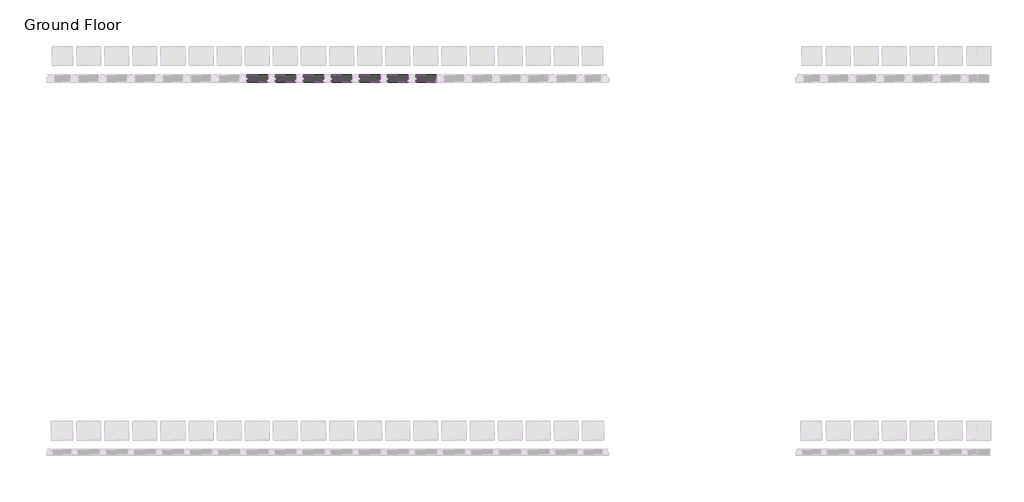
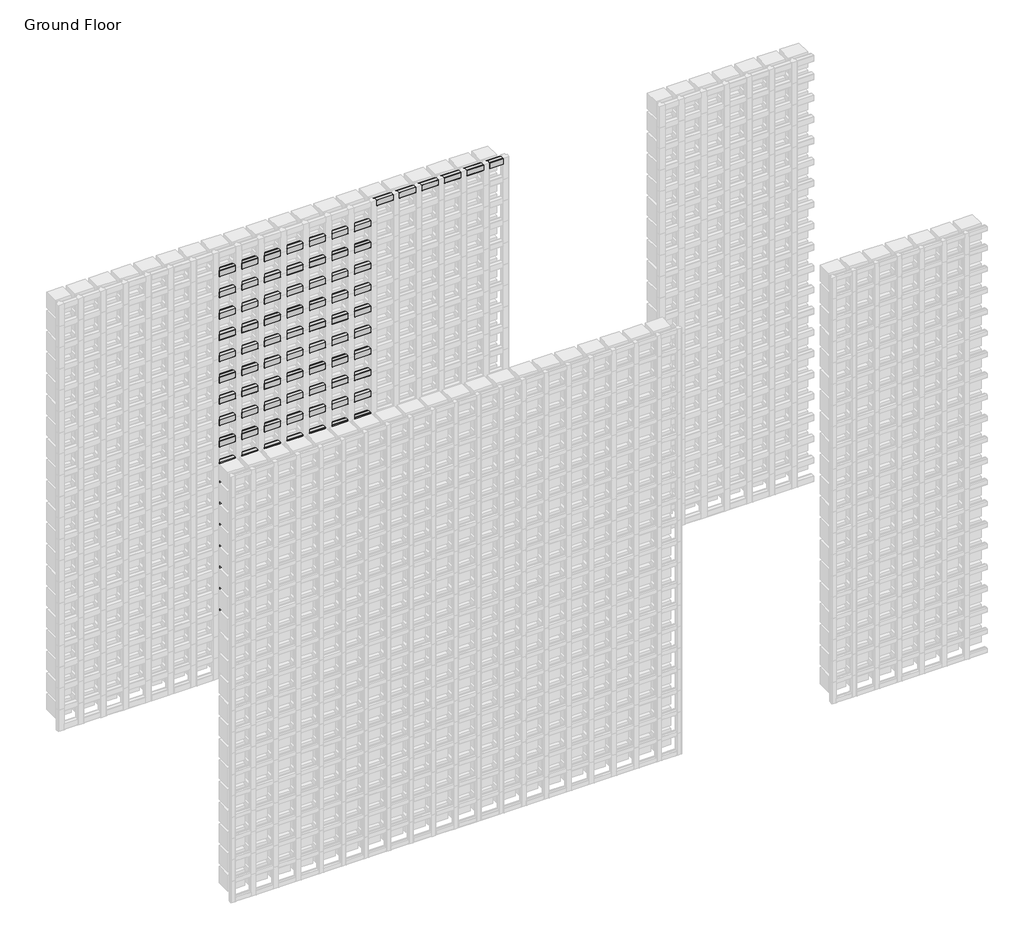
# One storey, part 114 of 350: 137 members, 6 plates.
"""IFC4 building model written with IfcOpenShell, lengths in millimetres."""

from ifc_helpers import new_model, si_unit, origin, place, context, project, spatial, transform, mapped, element, save
from components import rectangular_mullion_84e0df2e, rectangular_mullion_ff8a000c, rectangular_mullion_dacc5c26, rectangular_mullion_b3ed1982, rectangular_mullion_71680797, rectangular_mullion_c1c7f7ba, empty_system_panel_empty_5e80e148, empty_system_panel_empty_a9be3bbe

model = new_model("IFC4")

# Units and contexts
model_context = context("Model", 3, world=origin())
ifc_project = project(units=[si_unit("LENGTHUNIT", "METRE", prefix="MILLI")], contexts=[model_context])

# Site, building, storey
site = spatial("IfcSite", under=ifc_project)
building = spatial("IfcBuilding", under=site)
storey = spatial("IfcBuildingStorey", under=building, Name="Ground Floor", Elevation=0.0)

# Members
placement = place(None, origin())
rectangular_mullion_shape = rectangular_mullion_84e0df2e(model_context)
element("IfcMember", 1, ObjectType="Rectangular Mullion : Batten_Timber_Modinex_Austratus_Grid_Fin_40x40_AlaskanYellowCedar", at=placement, inside=storey, context=model_context, shape_type="MappedRepresentation", body=[
    mapped(rectangular_mullion_shape, transform((4016.4361642, 44968.2978302, 0.0), x_axis=(1.0, 0.0, 0.0), y_axis=(0.0, -1.0, 0.0), z_axis=(0.0, 0.0, -1.0))),
])
element("IfcMember", 2, ObjectType="Rectangular Mullion : Batten_Timber_Modinex_Austratus_Grid_Fin_40x40_AlaskanYellowCedar", at=placement, inside=storey, context=model_context, shape_type="MappedRepresentation", body=[
    mapped(rectangular_mullion_shape, transform((4166.4361642, 44968.2978302, 0.0), x_axis=(1.0, 0.0, 0.0), y_axis=(0.0, -1.0, 0.0), z_axis=(0.0, 0.0, -1.0))),
])
element("IfcMember", 3, ObjectType="Rectangular Mullion : Batten_Timber_Modinex_Austratus_Grid_Fin_40x40_AlaskanYellowCedar", at=placement, inside=storey, context=model_context, shape_type="MappedRepresentation", body=[
    mapped(rectangular_mullion_shape, transform((4316.4361642, 44968.2978302, 0.0), x_axis=(1.0, 0.0, 0.0), y_axis=(0.0, -1.0, 0.0), z_axis=(0.0, 0.0, -1.0))),
])
element("IfcMember", 4, ObjectType="Rectangular Mullion : Batten_Timber_Modinex_Austratus_Grid_Fin_40x40_AlaskanYellowCedar", at=placement, inside=storey, context=model_context, shape_type="MappedRepresentation", body=[
    mapped(rectangular_mullion_shape, transform((4466.4361642, 44968.2978302, 0.0), x_axis=(1.0, 0.0, 0.0), y_axis=(0.0, -1.0, 0.0), z_axis=(0.0, 0.0, -1.0))),
])
element("IfcMember", 5, ObjectType="Rectangular Mullion : Batten_Timber_Modinex_Austratus_Grid_Fin_40x40_AlaskanYellowCedar", at=placement, inside=storey, context=model_context, shape_type="MappedRepresentation", body=[
    mapped(rectangular_mullion_shape, transform((4616.4361642, 44968.2978302, 0.0), x_axis=(1.0, 0.0, 0.0), y_axis=(0.0, -1.0, 0.0), z_axis=(0.0, 0.0, -1.0))),
])
element("IfcMember", 6, ObjectType="Rectangular Mullion : Batten_Timber_Modinex_Austratus_Grid_Fin_40x40_AlaskanYellowCedar", at=placement, inside=storey, context=model_context, shape_type="MappedRepresentation", body=[
    mapped(rectangular_mullion_shape, transform((4766.4361642, 44968.2978302, 0.0), x_axis=(1.0, 0.0, 0.0), y_axis=(0.0, -1.0, 0.0), z_axis=(0.0, 0.0, -1.0))),
])
rectangular_mullion_2_shape = rectangular_mullion_ff8a000c(model_context)
element("IfcMember", 7, ObjectType="Rectangular Mullion : Batten_Timber_Modinex_Austratus_Grid_Fin_40x40_AlaskanYellowCedar", at=placement, inside=storey, context=model_context, shape_type="MappedRepresentation", body=[
    mapped(rectangular_mullion_2_shape, transform((4876.4361639, 44968.2978302, 3000.0), x_axis=(0.0, 0.0, 1.0), y_axis=(0.0, -1.0, 0.0), z_axis=(1.0, 0.0, 0.0))),
])
rectangular_mullion_3_shape = rectangular_mullion_dacc5c26(model_context)
element("IfcMember", 8, ObjectType="Rectangular Mullion : Batten_Timber_Modinex_Austratus_Grid_Fin_40x40_AlaskanYellowCedar", at=placement, inside=storey, context=model_context, shape_type="MappedRepresentation", body=[
    mapped(rectangular_mullion_3_shape, transform((4146.4361642, 44968.2978302, 3000.0), x_axis=(0.0, 0.0, 1.0), y_axis=(0.0, -1.0, 0.0), z_axis=(1.0, 0.0, 0.0))),
])
element("IfcMember", 9, ObjectType="Rectangular Mullion : Batten_Timber_Modinex_Austratus_Grid_Fin_40x40_AlaskanYellowCedar", at=placement, inside=storey, context=model_context, shape_type="MappedRepresentation", body=[
    mapped(rectangular_mullion_3_shape, transform((4296.4361642, 44968.2978302, 3000.0), x_axis=(0.0, 0.0, 1.0), y_axis=(0.0, -1.0, 0.0), z_axis=(1.0, 0.0, 0.0))),
])
element("IfcMember", 10, ObjectType="Rectangular Mullion : Batten_Timber_Modinex_Austratus_Grid_Fin_40x40_AlaskanYellowCedar", at=placement, inside=storey, context=model_context, shape_type="MappedRepresentation", body=[
    mapped(rectangular_mullion_3_shape, transform((4446.4361642, 44968.2978302, 3000.0), x_axis=(0.0, 0.0, 1.0), y_axis=(0.0, -1.0, 0.0), z_axis=(1.0, 0.0, 0.0))),
])
element("IfcMember", 11, ObjectType="Rectangular Mullion : Batten_Timber_Modinex_Austratus_Grid_Fin_40x40_AlaskanYellowCedar", at=placement, inside=storey, context=model_context, shape_type="MappedRepresentation", body=[
    mapped(rectangular_mullion_3_shape, transform((4596.4361642, 44968.2978302, 3000.0), x_axis=(0.0, 0.0, 1.0), y_axis=(0.0, -1.0, 0.0), z_axis=(1.0, 0.0, 0.0))),
])
element("IfcMember", 12, ObjectType="Rectangular Mullion : Batten_Timber_Modinex_Austratus_Grid_Fin_40x40_AlaskanYellowCedar", at=placement, inside=storey, context=model_context, shape_type="MappedRepresentation", body=[
    mapped(rectangular_mullion_3_shape, transform((4746.4361642, 44968.2978302, 3000.0), x_axis=(0.0, 0.0, 1.0), y_axis=(0.0, -1.0, 0.0), z_axis=(1.0, 0.0, 0.0))),
])
rectangular_mullion_4_shape = rectangular_mullion_b3ed1982(model_context)
element("IfcMember", 13, ObjectType="Rectangular Mullion : Batten_Timber_Modinex_Austratus_Grid_Fin_40x40_AlaskanYellowCedar", at=placement, inside=storey, context=model_context, shape_type="MappedRepresentation", body=[
    mapped(rectangular_mullion_4_shape, transform((4786.4361642, 44968.2978302, 0.0), x_axis=(0.0, 0.0, -1.0), y_axis=(0.0, -1.0, 0.0), z_axis=(-1.0, 0.0, 0.0))),
])
rectangular_mullion_5_shape = rectangular_mullion_71680797(model_context)
element("IfcMember", 14, ObjectType="Rectangular Mullion : Batten_Timber_Modinex_Austratus_Grid_Fin_40x40_AlaskanYellowCedar", at=placement, inside=storey, context=model_context, shape_type="MappedRepresentation", body=[
    mapped(rectangular_mullion_5_shape, transform((4036.4361642, 44968.2978302, 0.0), x_axis=(0.0, 0.0, -1.0), y_axis=(0.0, -1.0, 0.0), z_axis=(-1.0, 0.0, 0.0))),
])
element("IfcMember", 15, ObjectType="Rectangular Mullion : Batten_Timber_Modinex_Austratus_Grid_Fin_40x40_AlaskanYellowCedar", at=placement, inside=storey, context=model_context, shape_type="MappedRepresentation", body=[
    mapped(rectangular_mullion_5_shape, transform((4186.4361642, 44968.2978302, 0.0), x_axis=(0.0, 0.0, -1.0), y_axis=(0.0, -1.0, 0.0), z_axis=(-1.0, 0.0, 0.0))),
])
element("IfcMember", 16, ObjectType="Rectangular Mullion : Batten_Timber_Modinex_Austratus_Grid_Fin_40x40_AlaskanYellowCedar", at=placement, inside=storey, context=model_context, shape_type="MappedRepresentation", body=[
    mapped(rectangular_mullion_5_shape, transform((4336.4361642, 44968.2978302, 0.0), x_axis=(0.0, 0.0, -1.0), y_axis=(0.0, -1.0, 0.0), z_axis=(-1.0, 0.0, 0.0))),
])
element("IfcMember", 17, ObjectType="Rectangular Mullion : Batten_Timber_Modinex_Austratus_Grid_Fin_40x40_AlaskanYellowCedar", at=placement, inside=storey, context=model_context, shape_type="MappedRepresentation", body=[
    mapped(rectangular_mullion_5_shape, transform((4486.4361642, 44968.2978302, 0.0), x_axis=(0.0, 0.0, -1.0), y_axis=(0.0, -1.0, 0.0), z_axis=(-1.0, 0.0, 0.0))),
])
element("IfcMember", 18, ObjectType="Rectangular Mullion : Batten_Timber_Modinex_Austratus_Grid_Fin_40x40_AlaskanYellowCedar", at=placement, inside=storey, context=model_context, shape_type="MappedRepresentation", body=[
    mapped(rectangular_mullion_5_shape, transform((4636.4361642, 44968.2978302, 0.0), x_axis=(0.0, 0.0, -1.0), y_axis=(0.0, -1.0, 0.0), z_axis=(-1.0, 0.0, 0.0))),
])
rectangular_mullion_6_shape = rectangular_mullion_c1c7f7ba(model_context)
element("IfcMember", 19, ObjectType="Rectangular Mullion : Batten_Timber_Modinex_Austratus_Grid_Fin_40x40_AlaskanYellowCedar", at=placement, inside=storey, context=model_context, shape_type="MappedRepresentation", body=[
    mapped(rectangular_mullion_6_shape, transform((3096.4361642, 44968.2978302, 450.0), x_axis=(0.0, 0.0, 1.0), y_axis=(0.0, -1.0, 0.0), z_axis=(1.0, 0.0, 0.0))),
])
element("IfcMember", 20, ObjectType="Rectangular Mullion : Batten_Timber_Modinex_Austratus_Grid_Fin_40x40_AlaskanYellowCedar", at=placement, inside=storey, context=model_context, shape_type="MappedRepresentation", body=[
    mapped(rectangular_mullion_6_shape, transform((3246.4361642, 44968.2978302, 450.0), x_axis=(0.0, 0.0, 1.0), y_axis=(0.0, -1.0, 0.0), z_axis=(1.0, 0.0, 0.0))),
])
element("IfcMember", 21, ObjectType="Rectangular Mullion : Batten_Timber_Modinex_Austratus_Grid_Fin_40x40_AlaskanYellowCedar", at=placement, inside=storey, context=model_context, shape_type="MappedRepresentation", body=[
    mapped(rectangular_mullion_6_shape, transform((3396.4361642, 44968.2978302, 450.0), x_axis=(0.0, 0.0, 1.0), y_axis=(0.0, -1.0, 0.0), z_axis=(1.0, 0.0, 0.0))),
])
element("IfcMember", 22, ObjectType="Rectangular Mullion : Batten_Timber_Modinex_Austratus_Grid_Fin_40x40_AlaskanYellowCedar", at=placement, inside=storey, context=model_context, shape_type="MappedRepresentation", body=[
    mapped(rectangular_mullion_6_shape, transform((3546.4361642, 44968.2978302, 450.0), x_axis=(0.0, 0.0, 1.0), y_axis=(0.0, -1.0, 0.0), z_axis=(1.0, 0.0, 0.0))),
])
element("IfcMember", 23, ObjectType="Rectangular Mullion : Batten_Timber_Modinex_Austratus_Grid_Fin_40x40_AlaskanYellowCedar", at=placement, inside=storey, context=model_context, shape_type="MappedRepresentation", body=[
    mapped(rectangular_mullion_6_shape, transform((3696.4361642, 44968.2978302, 450.0), x_axis=(0.0, 0.0, 1.0), y_axis=(0.0, -1.0, 0.0), z_axis=(1.0, 0.0, 0.0))),
])
element("IfcMember", 24, ObjectType="Rectangular Mullion : Batten_Timber_Modinex_Austratus_Grid_Fin_40x40_AlaskanYellowCedar", at=placement, inside=storey, context=model_context, shape_type="MappedRepresentation", body=[
    mapped(rectangular_mullion_6_shape, transform((3846.4361642, 44968.2978302, 450.0), x_axis=(0.0, 0.0, 1.0), y_axis=(0.0, -1.0, 0.0), z_axis=(1.0, 0.0, 0.0))),
])
element("IfcMember", 25, ObjectType="Rectangular Mullion : Batten_Timber_Modinex_Austratus_Grid_Fin_40x40_AlaskanYellowCedar", at=placement, inside=storey, context=model_context, shape_type="MappedRepresentation", body=[
    mapped(rectangular_mullion_6_shape, transform((3996.4361642, 44968.2978302, 450.0), x_axis=(0.0, 0.0, 1.0), y_axis=(0.0, -1.0, 0.0), z_axis=(1.0, 0.0, 0.0))),
])
element("IfcMember", 26, ObjectType="Rectangular Mullion : Batten_Timber_Modinex_Austratus_Grid_Fin_40x40_AlaskanYellowCedar", at=placement, inside=storey, context=model_context, shape_type="MappedRepresentation", body=[
    mapped(rectangular_mullion_6_shape, transform((3096.4361642, 44968.2978302, 600.0), x_axis=(0.0, 0.0, 1.0), y_axis=(0.0, -1.0, 0.0), z_axis=(1.0, 0.0, 0.0))),
])
element("IfcMember", 27, ObjectType="Rectangular Mullion : Batten_Timber_Modinex_Austratus_Grid_Fin_40x40_AlaskanYellowCedar", at=placement, inside=storey, context=model_context, shape_type="MappedRepresentation", body=[
    mapped(rectangular_mullion_6_shape, transform((3246.4361642, 44968.2978302, 600.0), x_axis=(0.0, 0.0, 1.0), y_axis=(0.0, -1.0, 0.0), z_axis=(1.0, 0.0, 0.0))),
])
element("IfcMember", 28, ObjectType="Rectangular Mullion : Batten_Timber_Modinex_Austratus_Grid_Fin_40x40_AlaskanYellowCedar", at=placement, inside=storey, context=model_context, shape_type="MappedRepresentation", body=[
    mapped(rectangular_mullion_6_shape, transform((3396.4361642, 44968.2978302, 600.0), x_axis=(0.0, 0.0, 1.0), y_axis=(0.0, -1.0, 0.0), z_axis=(1.0, 0.0, 0.0))),
])
element("IfcMember", 29, ObjectType="Rectangular Mullion : Batten_Timber_Modinex_Austratus_Grid_Fin_40x40_AlaskanYellowCedar", at=placement, inside=storey, context=model_context, shape_type="MappedRepresentation", body=[
    mapped(rectangular_mullion_6_shape, transform((3546.4361642, 44968.2978302, 600.0), x_axis=(0.0, 0.0, 1.0), y_axis=(0.0, -1.0, 0.0), z_axis=(1.0, 0.0, 0.0))),
])
element("IfcMember", 30, ObjectType="Rectangular Mullion : Batten_Timber_Modinex_Austratus_Grid_Fin_40x40_AlaskanYellowCedar", at=placement, inside=storey, context=model_context, shape_type="MappedRepresentation", body=[
    mapped(rectangular_mullion_6_shape, transform((3696.4361642, 44968.2978302, 600.0), x_axis=(0.0, 0.0, 1.0), y_axis=(0.0, -1.0, 0.0), z_axis=(1.0, 0.0, 0.0))),
])
element("IfcMember", 31, ObjectType="Rectangular Mullion : Batten_Timber_Modinex_Austratus_Grid_Fin_40x40_AlaskanYellowCedar", at=placement, inside=storey, context=model_context, shape_type="MappedRepresentation", body=[
    mapped(rectangular_mullion_6_shape, transform((3846.4361642, 44968.2978302, 600.0), x_axis=(0.0, 0.0, 1.0), y_axis=(0.0, -1.0, 0.0), z_axis=(1.0, 0.0, 0.0))),
])
element("IfcMember", 32, ObjectType="Rectangular Mullion : Batten_Timber_Modinex_Austratus_Grid_Fin_40x40_AlaskanYellowCedar", at=placement, inside=storey, context=model_context, shape_type="MappedRepresentation", body=[
    mapped(rectangular_mullion_6_shape, transform((3996.4361642, 44968.2978302, 600.0), x_axis=(0.0, 0.0, 1.0), y_axis=(0.0, -1.0, 0.0), z_axis=(1.0, 0.0, 0.0))),
])
element("IfcMember", 33, ObjectType="Rectangular Mullion : Batten_Timber_Modinex_Austratus_Grid_Fin_40x40_AlaskanYellowCedar", at=placement, inside=storey, context=model_context, shape_type="MappedRepresentation", body=[
    mapped(rectangular_mullion_6_shape, transform((3096.4361642, 44968.2978302, 750.0), x_axis=(0.0, 0.0, 1.0), y_axis=(0.0, -1.0, 0.0), z_axis=(1.0, 0.0, 0.0))),
])
element("IfcMember", 34, ObjectType="Rectangular Mullion : Batten_Timber_Modinex_Austratus_Grid_Fin_40x40_AlaskanYellowCedar", at=placement, inside=storey, context=model_context, shape_type="MappedRepresentation", body=[
    mapped(rectangular_mullion_6_shape, transform((3246.4361642, 44968.2978302, 750.0), x_axis=(0.0, 0.0, 1.0), y_axis=(0.0, -1.0, 0.0), z_axis=(1.0, 0.0, 0.0))),
])
element("IfcMember", 35, ObjectType="Rectangular Mullion : Batten_Timber_Modinex_Austratus_Grid_Fin_40x40_AlaskanYellowCedar", at=placement, inside=storey, context=model_context, shape_type="MappedRepresentation", body=[
    mapped(rectangular_mullion_6_shape, transform((3396.4361642, 44968.2978302, 750.0), x_axis=(0.0, 0.0, 1.0), y_axis=(0.0, -1.0, 0.0), z_axis=(1.0, 0.0, 0.0))),
])
element("IfcMember", 36, ObjectType="Rectangular Mullion : Batten_Timber_Modinex_Austratus_Grid_Fin_40x40_AlaskanYellowCedar", at=placement, inside=storey, context=model_context, shape_type="MappedRepresentation", body=[
    mapped(rectangular_mullion_6_shape, transform((3546.4361642, 44968.2978302, 750.0), x_axis=(0.0, 0.0, 1.0), y_axis=(0.0, -1.0, 0.0), z_axis=(1.0, 0.0, 0.0))),
])
element("IfcMember", 37, ObjectType="Rectangular Mullion : Batten_Timber_Modinex_Austratus_Grid_Fin_40x40_AlaskanYellowCedar", at=placement, inside=storey, context=model_context, shape_type="MappedRepresentation", body=[
    mapped(rectangular_mullion_6_shape, transform((3696.4361642, 44968.2978302, 750.0), x_axis=(0.0, 0.0, 1.0), y_axis=(0.0, -1.0, 0.0), z_axis=(1.0, 0.0, 0.0))),
])
element("IfcMember", 38, ObjectType="Rectangular Mullion : Batten_Timber_Modinex_Austratus_Grid_Fin_40x40_AlaskanYellowCedar", at=placement, inside=storey, context=model_context, shape_type="MappedRepresentation", body=[
    mapped(rectangular_mullion_6_shape, transform((3846.4361642, 44968.2978302, 750.0), x_axis=(0.0, 0.0, 1.0), y_axis=(0.0, -1.0, 0.0), z_axis=(1.0, 0.0, 0.0))),
])
element("IfcMember", 39, ObjectType="Rectangular Mullion : Batten_Timber_Modinex_Austratus_Grid_Fin_40x40_AlaskanYellowCedar", at=placement, inside=storey, context=model_context, shape_type="MappedRepresentation", body=[
    mapped(rectangular_mullion_6_shape, transform((3996.4361642, 44968.2978302, 750.0), x_axis=(0.0, 0.0, 1.0), y_axis=(0.0, -1.0, 0.0), z_axis=(1.0, 0.0, 0.0))),
])
element("IfcMember", 40, ObjectType="Rectangular Mullion : Batten_Timber_Modinex_Austratus_Grid_Fin_40x40_AlaskanYellowCedar", at=placement, inside=storey, context=model_context, shape_type="MappedRepresentation", body=[
    mapped(rectangular_mullion_6_shape, transform((3096.4361642, 44968.2978302, 900.0), x_axis=(0.0, 0.0, 1.0), y_axis=(0.0, -1.0, 0.0), z_axis=(1.0, 0.0, 0.0))),
])
element("IfcMember", 41, ObjectType="Rectangular Mullion : Batten_Timber_Modinex_Austratus_Grid_Fin_40x40_AlaskanYellowCedar", at=placement, inside=storey, context=model_context, shape_type="MappedRepresentation", body=[
    mapped(rectangular_mullion_6_shape, transform((3246.4361642, 44968.2978302, 900.0), x_axis=(0.0, 0.0, 1.0), y_axis=(0.0, -1.0, 0.0), z_axis=(1.0, 0.0, 0.0))),
])
element("IfcMember", 42, ObjectType="Rectangular Mullion : Batten_Timber_Modinex_Austratus_Grid_Fin_40x40_AlaskanYellowCedar", at=placement, inside=storey, context=model_context, shape_type="MappedRepresentation", body=[
    mapped(rectangular_mullion_6_shape, transform((3396.4361642, 44968.2978302, 900.0), x_axis=(0.0, 0.0, 1.0), y_axis=(0.0, -1.0, 0.0), z_axis=(1.0, 0.0, 0.0))),
])
element("IfcMember", 43, ObjectType="Rectangular Mullion : Batten_Timber_Modinex_Austratus_Grid_Fin_40x40_AlaskanYellowCedar", at=placement, inside=storey, context=model_context, shape_type="MappedRepresentation", body=[
    mapped(rectangular_mullion_6_shape, transform((3546.4361642, 44968.2978302, 900.0), x_axis=(0.0, 0.0, 1.0), y_axis=(0.0, -1.0, 0.0), z_axis=(1.0, 0.0, 0.0))),
])
element("IfcMember", 44, ObjectType="Rectangular Mullion : Batten_Timber_Modinex_Austratus_Grid_Fin_40x40_AlaskanYellowCedar", at=placement, inside=storey, context=model_context, shape_type="MappedRepresentation", body=[
    mapped(rectangular_mullion_6_shape, transform((3696.4361642, 44968.2978302, 900.0), x_axis=(0.0, 0.0, 1.0), y_axis=(0.0, -1.0, 0.0), z_axis=(1.0, 0.0, 0.0))),
])
element("IfcMember", 45, ObjectType="Rectangular Mullion : Batten_Timber_Modinex_Austratus_Grid_Fin_40x40_AlaskanYellowCedar", at=placement, inside=storey, context=model_context, shape_type="MappedRepresentation", body=[
    mapped(rectangular_mullion_6_shape, transform((3846.4361642, 44968.2978302, 900.0), x_axis=(0.0, 0.0, 1.0), y_axis=(0.0, -1.0, 0.0), z_axis=(1.0, 0.0, 0.0))),
])
element("IfcMember", 46, ObjectType="Rectangular Mullion : Batten_Timber_Modinex_Austratus_Grid_Fin_40x40_AlaskanYellowCedar", at=placement, inside=storey, context=model_context, shape_type="MappedRepresentation", body=[
    mapped(rectangular_mullion_6_shape, transform((3996.4361642, 44968.2978302, 900.0), x_axis=(0.0, 0.0, 1.0), y_axis=(0.0, -1.0, 0.0), z_axis=(1.0, 0.0, 0.0))),
])
element("IfcMember", 47, ObjectType="Rectangular Mullion : Batten_Timber_Modinex_Austratus_Grid_Fin_40x40_AlaskanYellowCedar", at=placement, inside=storey, context=model_context, shape_type="MappedRepresentation", body=[
    mapped(rectangular_mullion_6_shape, transform((3096.4361642, 44968.2978302, 1050.0), x_axis=(0.0, 0.0, 1.0), y_axis=(0.0, -1.0, 0.0), z_axis=(1.0, 0.0, 0.0))),
])
element("IfcMember", 48, ObjectType="Rectangular Mullion : Batten_Timber_Modinex_Austratus_Grid_Fin_40x40_AlaskanYellowCedar", at=placement, inside=storey, context=model_context, shape_type="MappedRepresentation", body=[
    mapped(rectangular_mullion_6_shape, transform((3246.4361642, 44968.2978302, 1050.0), x_axis=(0.0, 0.0, 1.0), y_axis=(0.0, -1.0, 0.0), z_axis=(1.0, 0.0, 0.0))),
])
element("IfcMember", 49, ObjectType="Rectangular Mullion : Batten_Timber_Modinex_Austratus_Grid_Fin_40x40_AlaskanYellowCedar", at=placement, inside=storey, context=model_context, shape_type="MappedRepresentation", body=[
    mapped(rectangular_mullion_6_shape, transform((3396.4361642, 44968.2978302, 1050.0), x_axis=(0.0, 0.0, 1.0), y_axis=(0.0, -1.0, 0.0), z_axis=(1.0, 0.0, 0.0))),
])
element("IfcMember", 50, ObjectType="Rectangular Mullion : Batten_Timber_Modinex_Austratus_Grid_Fin_40x40_AlaskanYellowCedar", at=placement, inside=storey, context=model_context, shape_type="MappedRepresentation", body=[
    mapped(rectangular_mullion_6_shape, transform((3546.4361642, 44968.2978302, 1050.0), x_axis=(0.0, 0.0, 1.0), y_axis=(0.0, -1.0, 0.0), z_axis=(1.0, 0.0, 0.0))),
])
element("IfcMember", 51, ObjectType="Rectangular Mullion : Batten_Timber_Modinex_Austratus_Grid_Fin_40x40_AlaskanYellowCedar", at=placement, inside=storey, context=model_context, shape_type="MappedRepresentation", body=[
    mapped(rectangular_mullion_6_shape, transform((3696.4361642, 44968.2978302, 1050.0), x_axis=(0.0, 0.0, 1.0), y_axis=(0.0, -1.0, 0.0), z_axis=(1.0, 0.0, 0.0))),
])
element("IfcMember", 52, ObjectType="Rectangular Mullion : Batten_Timber_Modinex_Austratus_Grid_Fin_40x40_AlaskanYellowCedar", at=placement, inside=storey, context=model_context, shape_type="MappedRepresentation", body=[
    mapped(rectangular_mullion_6_shape, transform((3846.4361642, 44968.2978302, 1050.0), x_axis=(0.0, 0.0, 1.0), y_axis=(0.0, -1.0, 0.0), z_axis=(1.0, 0.0, 0.0))),
])
element("IfcMember", 53, ObjectType="Rectangular Mullion : Batten_Timber_Modinex_Austratus_Grid_Fin_40x40_AlaskanYellowCedar", at=placement, inside=storey, context=model_context, shape_type="MappedRepresentation", body=[
    mapped(rectangular_mullion_6_shape, transform((3996.4361642, 44968.2978302, 1050.0), x_axis=(0.0, 0.0, 1.0), y_axis=(0.0, -1.0, 0.0), z_axis=(1.0, 0.0, 0.0))),
])
element("IfcMember", 54, ObjectType="Rectangular Mullion : Batten_Timber_Modinex_Austratus_Grid_Fin_40x40_AlaskanYellowCedar", at=placement, inside=storey, context=model_context, shape_type="MappedRepresentation", body=[
    mapped(rectangular_mullion_6_shape, transform((3096.4361642, 44968.2978302, 1200.0), x_axis=(0.0, 0.0, 1.0), y_axis=(0.0, -1.0, 0.0), z_axis=(1.0, 0.0, 0.0))),
])
element("IfcMember", 55, ObjectType="Rectangular Mullion : Batten_Timber_Modinex_Austratus_Grid_Fin_40x40_AlaskanYellowCedar", at=placement, inside=storey, context=model_context, shape_type="MappedRepresentation", body=[
    mapped(rectangular_mullion_6_shape, transform((3246.4361642, 44968.2978302, 1200.0), x_axis=(0.0, 0.0, 1.0), y_axis=(0.0, -1.0, 0.0), z_axis=(1.0, 0.0, 0.0))),
])
element("IfcMember", 56, ObjectType="Rectangular Mullion : Batten_Timber_Modinex_Austratus_Grid_Fin_40x40_AlaskanYellowCedar", at=placement, inside=storey, context=model_context, shape_type="MappedRepresentation", body=[
    mapped(rectangular_mullion_6_shape, transform((3396.4361642, 44968.2978302, 1200.0), x_axis=(0.0, 0.0, 1.0), y_axis=(0.0, -1.0, 0.0), z_axis=(1.0, 0.0, 0.0))),
])
element("IfcMember", 57, ObjectType="Rectangular Mullion : Batten_Timber_Modinex_Austratus_Grid_Fin_40x40_AlaskanYellowCedar", at=placement, inside=storey, context=model_context, shape_type="MappedRepresentation", body=[
    mapped(rectangular_mullion_6_shape, transform((3546.4361642, 44968.2978302, 1200.0), x_axis=(0.0, 0.0, 1.0), y_axis=(0.0, -1.0, 0.0), z_axis=(1.0, 0.0, 0.0))),
])
element("IfcMember", 58, ObjectType="Rectangular Mullion : Batten_Timber_Modinex_Austratus_Grid_Fin_40x40_AlaskanYellowCedar", at=placement, inside=storey, context=model_context, shape_type="MappedRepresentation", body=[
    mapped(rectangular_mullion_6_shape, transform((3696.4361642, 44968.2978302, 1200.0), x_axis=(0.0, 0.0, 1.0), y_axis=(0.0, -1.0, 0.0), z_axis=(1.0, 0.0, 0.0))),
])
element("IfcMember", 59, ObjectType="Rectangular Mullion : Batten_Timber_Modinex_Austratus_Grid_Fin_40x40_AlaskanYellowCedar", at=placement, inside=storey, context=model_context, shape_type="MappedRepresentation", body=[
    mapped(rectangular_mullion_6_shape, transform((3846.4361642, 44968.2978302, 1200.0), x_axis=(0.0, 0.0, 1.0), y_axis=(0.0, -1.0, 0.0), z_axis=(1.0, 0.0, 0.0))),
])
element("IfcMember", 60, ObjectType="Rectangular Mullion : Batten_Timber_Modinex_Austratus_Grid_Fin_40x40_AlaskanYellowCedar", at=placement, inside=storey, context=model_context, shape_type="MappedRepresentation", body=[
    mapped(rectangular_mullion_6_shape, transform((3996.4361642, 44968.2978302, 1200.0), x_axis=(0.0, 0.0, 1.0), y_axis=(0.0, -1.0, 0.0), z_axis=(1.0, 0.0, 0.0))),
])
element("IfcMember", 61, ObjectType="Rectangular Mullion : Batten_Timber_Modinex_Austratus_Grid_Fin_40x40_AlaskanYellowCedar", at=placement, inside=storey, context=model_context, shape_type="MappedRepresentation", body=[
    mapped(rectangular_mullion_6_shape, transform((3096.4361642, 44968.2978302, 1350.0), x_axis=(0.0, 0.0, 1.0), y_axis=(0.0, -1.0, 0.0), z_axis=(1.0, 0.0, 0.0))),
])
element("IfcMember", 62, ObjectType="Rectangular Mullion : Batten_Timber_Modinex_Austratus_Grid_Fin_40x40_AlaskanYellowCedar", at=placement, inside=storey, context=model_context, shape_type="MappedRepresentation", body=[
    mapped(rectangular_mullion_6_shape, transform((3246.4361642, 44968.2978302, 1350.0), x_axis=(0.0, 0.0, 1.0), y_axis=(0.0, -1.0, 0.0), z_axis=(1.0, 0.0, 0.0))),
])
element("IfcMember", 63, ObjectType="Rectangular Mullion : Batten_Timber_Modinex_Austratus_Grid_Fin_40x40_AlaskanYellowCedar", at=placement, inside=storey, context=model_context, shape_type="MappedRepresentation", body=[
    mapped(rectangular_mullion_6_shape, transform((3396.4361642, 44968.2978302, 1350.0), x_axis=(0.0, 0.0, 1.0), y_axis=(0.0, -1.0, 0.0), z_axis=(1.0, 0.0, 0.0))),
])
element("IfcMember", 64, ObjectType="Rectangular Mullion : Batten_Timber_Modinex_Austratus_Grid_Fin_40x40_AlaskanYellowCedar", at=placement, inside=storey, context=model_context, shape_type="MappedRepresentation", body=[
    mapped(rectangular_mullion_6_shape, transform((3546.4361642, 44968.2978302, 1350.0), x_axis=(0.0, 0.0, 1.0), y_axis=(0.0, -1.0, 0.0), z_axis=(1.0, 0.0, 0.0))),
])
element("IfcMember", 65, ObjectType="Rectangular Mullion : Batten_Timber_Modinex_Austratus_Grid_Fin_40x40_AlaskanYellowCedar", at=placement, inside=storey, context=model_context, shape_type="MappedRepresentation", body=[
    mapped(rectangular_mullion_6_shape, transform((3696.4361642, 44968.2978302, 1350.0), x_axis=(0.0, 0.0, 1.0), y_axis=(0.0, -1.0, 0.0), z_axis=(1.0, 0.0, 0.0))),
])
element("IfcMember", 66, ObjectType="Rectangular Mullion : Batten_Timber_Modinex_Austratus_Grid_Fin_40x40_AlaskanYellowCedar", at=placement, inside=storey, context=model_context, shape_type="MappedRepresentation", body=[
    mapped(rectangular_mullion_6_shape, transform((3846.4361642, 44968.2978302, 1350.0), x_axis=(0.0, 0.0, 1.0), y_axis=(0.0, -1.0, 0.0), z_axis=(1.0, 0.0, 0.0))),
])
element("IfcMember", 67, ObjectType="Rectangular Mullion : Batten_Timber_Modinex_Austratus_Grid_Fin_40x40_AlaskanYellowCedar", at=placement, inside=storey, context=model_context, shape_type="MappedRepresentation", body=[
    mapped(rectangular_mullion_6_shape, transform((3996.4361642, 44968.2978302, 1350.0), x_axis=(0.0, 0.0, 1.0), y_axis=(0.0, -1.0, 0.0), z_axis=(1.0, 0.0, 0.0))),
])
element("IfcMember", 68, ObjectType="Rectangular Mullion : Batten_Timber_Modinex_Austratus_Grid_Fin_40x40_AlaskanYellowCedar", at=placement, inside=storey, context=model_context, shape_type="MappedRepresentation", body=[
    mapped(rectangular_mullion_6_shape, transform((3096.4361642, 44968.2978302, 1500.0), x_axis=(0.0, 0.0, 1.0), y_axis=(0.0, -1.0, 0.0), z_axis=(1.0, 0.0, 0.0))),
])
element("IfcMember", 69, ObjectType="Rectangular Mullion : Batten_Timber_Modinex_Austratus_Grid_Fin_40x40_AlaskanYellowCedar", at=placement, inside=storey, context=model_context, shape_type="MappedRepresentation", body=[
    mapped(rectangular_mullion_6_shape, transform((3246.4361642, 44968.2978302, 1500.0), x_axis=(0.0, 0.0, 1.0), y_axis=(0.0, -1.0, 0.0), z_axis=(1.0, 0.0, 0.0))),
])
element("IfcMember", 70, ObjectType="Rectangular Mullion : Batten_Timber_Modinex_Austratus_Grid_Fin_40x40_AlaskanYellowCedar", at=placement, inside=storey, context=model_context, shape_type="MappedRepresentation", body=[
    mapped(rectangular_mullion_6_shape, transform((3396.4361642, 44968.2978302, 1500.0), x_axis=(0.0, 0.0, 1.0), y_axis=(0.0, -1.0, 0.0), z_axis=(1.0, 0.0, 0.0))),
])
element("IfcMember", 71, ObjectType="Rectangular Mullion : Batten_Timber_Modinex_Austratus_Grid_Fin_40x40_AlaskanYellowCedar", at=placement, inside=storey, context=model_context, shape_type="MappedRepresentation", body=[
    mapped(rectangular_mullion_6_shape, transform((3546.4361642, 44968.2978302, 1500.0), x_axis=(0.0, 0.0, 1.0), y_axis=(0.0, -1.0, 0.0), z_axis=(1.0, 0.0, 0.0))),
])
element("IfcMember", 72, ObjectType="Rectangular Mullion : Batten_Timber_Modinex_Austratus_Grid_Fin_40x40_AlaskanYellowCedar", at=placement, inside=storey, context=model_context, shape_type="MappedRepresentation", body=[
    mapped(rectangular_mullion_6_shape, transform((3696.4361642, 44968.2978302, 1500.0), x_axis=(0.0, 0.0, 1.0), y_axis=(0.0, -1.0, 0.0), z_axis=(1.0, 0.0, 0.0))),
])
element("IfcMember", 73, ObjectType="Rectangular Mullion : Batten_Timber_Modinex_Austratus_Grid_Fin_40x40_AlaskanYellowCedar", at=placement, inside=storey, context=model_context, shape_type="MappedRepresentation", body=[
    mapped(rectangular_mullion_6_shape, transform((3846.4361642, 44968.2978302, 1500.0), x_axis=(0.0, 0.0, 1.0), y_axis=(0.0, -1.0, 0.0), z_axis=(1.0, 0.0, 0.0))),
])
element("IfcMember", 74, ObjectType="Rectangular Mullion : Batten_Timber_Modinex_Austratus_Grid_Fin_40x40_AlaskanYellowCedar", at=placement, inside=storey, context=model_context, shape_type="MappedRepresentation", body=[
    mapped(rectangular_mullion_6_shape, transform((3996.4361642, 44968.2978302, 1500.0), x_axis=(0.0, 0.0, 1.0), y_axis=(0.0, -1.0, 0.0), z_axis=(1.0, 0.0, 0.0))),
])
element("IfcMember", 75, ObjectType="Rectangular Mullion : Batten_Timber_Modinex_Austratus_Grid_Fin_40x40_AlaskanYellowCedar", at=placement, inside=storey, context=model_context, shape_type="MappedRepresentation", body=[
    mapped(rectangular_mullion_6_shape, transform((3096.4361642, 44968.2978302, 1650.0), x_axis=(0.0, 0.0, 1.0), y_axis=(0.0, -1.0, 0.0), z_axis=(1.0, 0.0, 0.0))),
])
element("IfcMember", 76, ObjectType="Rectangular Mullion : Batten_Timber_Modinex_Austratus_Grid_Fin_40x40_AlaskanYellowCedar", at=placement, inside=storey, context=model_context, shape_type="MappedRepresentation", body=[
    mapped(rectangular_mullion_6_shape, transform((3246.4361642, 44968.2978302, 1650.0), x_axis=(0.0, 0.0, 1.0), y_axis=(0.0, -1.0, 0.0), z_axis=(1.0, 0.0, 0.0))),
])
element("IfcMember", 77, ObjectType="Rectangular Mullion : Batten_Timber_Modinex_Austratus_Grid_Fin_40x40_AlaskanYellowCedar", at=placement, inside=storey, context=model_context, shape_type="MappedRepresentation", body=[
    mapped(rectangular_mullion_6_shape, transform((3396.4361642, 44968.2978302, 1650.0), x_axis=(0.0, 0.0, 1.0), y_axis=(0.0, -1.0, 0.0), z_axis=(1.0, 0.0, 0.0))),
])
element("IfcMember", 78, ObjectType="Rectangular Mullion : Batten_Timber_Modinex_Austratus_Grid_Fin_40x40_AlaskanYellowCedar", at=placement, inside=storey, context=model_context, shape_type="MappedRepresentation", body=[
    mapped(rectangular_mullion_6_shape, transform((3546.4361642, 44968.2978302, 1650.0), x_axis=(0.0, 0.0, 1.0), y_axis=(0.0, -1.0, 0.0), z_axis=(1.0, 0.0, 0.0))),
])
element("IfcMember", 79, ObjectType="Rectangular Mullion : Batten_Timber_Modinex_Austratus_Grid_Fin_40x40_AlaskanYellowCedar", at=placement, inside=storey, context=model_context, shape_type="MappedRepresentation", body=[
    mapped(rectangular_mullion_6_shape, transform((3696.4361642, 44968.2978302, 1650.0), x_axis=(0.0, 0.0, 1.0), y_axis=(0.0, -1.0, 0.0), z_axis=(1.0, 0.0, 0.0))),
])
element("IfcMember", 80, ObjectType="Rectangular Mullion : Batten_Timber_Modinex_Austratus_Grid_Fin_40x40_AlaskanYellowCedar", at=placement, inside=storey, context=model_context, shape_type="MappedRepresentation", body=[
    mapped(rectangular_mullion_6_shape, transform((3846.4361642, 44968.2978302, 1650.0), x_axis=(0.0, 0.0, 1.0), y_axis=(0.0, -1.0, 0.0), z_axis=(1.0, 0.0, 0.0))),
])
element("IfcMember", 81, ObjectType="Rectangular Mullion : Batten_Timber_Modinex_Austratus_Grid_Fin_40x40_AlaskanYellowCedar", at=placement, inside=storey, context=model_context, shape_type="MappedRepresentation", body=[
    mapped(rectangular_mullion_6_shape, transform((3996.4361642, 44968.2978302, 1650.0), x_axis=(0.0, 0.0, 1.0), y_axis=(0.0, -1.0, 0.0), z_axis=(1.0, 0.0, 0.0))),
])
element("IfcMember", 82, ObjectType="Rectangular Mullion : Batten_Timber_Modinex_Austratus_Grid_Fin_40x40_AlaskanYellowCedar", at=placement, inside=storey, context=model_context, shape_type="MappedRepresentation", body=[
    mapped(rectangular_mullion_6_shape, transform((3096.4361642, 44968.2978302, 1800.0), x_axis=(0.0, 0.0, 1.0), y_axis=(0.0, -1.0, 0.0), z_axis=(1.0, 0.0, 0.0))),
])
element("IfcMember", 83, ObjectType="Rectangular Mullion : Batten_Timber_Modinex_Austratus_Grid_Fin_40x40_AlaskanYellowCedar", at=placement, inside=storey, context=model_context, shape_type="MappedRepresentation", body=[
    mapped(rectangular_mullion_6_shape, transform((3246.4361642, 44968.2978302, 1800.0), x_axis=(0.0, 0.0, 1.0), y_axis=(0.0, -1.0, 0.0), z_axis=(1.0, 0.0, 0.0))),
])
element("IfcMember", 84, ObjectType="Rectangular Mullion : Batten_Timber_Modinex_Austratus_Grid_Fin_40x40_AlaskanYellowCedar", at=placement, inside=storey, context=model_context, shape_type="MappedRepresentation", body=[
    mapped(rectangular_mullion_6_shape, transform((3396.4361642, 44968.2978302, 1800.0), x_axis=(0.0, 0.0, 1.0), y_axis=(0.0, -1.0, 0.0), z_axis=(1.0, 0.0, 0.0))),
])
element("IfcMember", 85, ObjectType="Rectangular Mullion : Batten_Timber_Modinex_Austratus_Grid_Fin_40x40_AlaskanYellowCedar", at=placement, inside=storey, context=model_context, shape_type="MappedRepresentation", body=[
    mapped(rectangular_mullion_6_shape, transform((3546.4361642, 44968.2978302, 1800.0), x_axis=(0.0, 0.0, 1.0), y_axis=(0.0, -1.0, 0.0), z_axis=(1.0, 0.0, 0.0))),
])
element("IfcMember", 86, ObjectType="Rectangular Mullion : Batten_Timber_Modinex_Austratus_Grid_Fin_40x40_AlaskanYellowCedar", at=placement, inside=storey, context=model_context, shape_type="MappedRepresentation", body=[
    mapped(rectangular_mullion_6_shape, transform((3696.4361642, 44968.2978302, 1800.0), x_axis=(0.0, 0.0, 1.0), y_axis=(0.0, -1.0, 0.0), z_axis=(1.0, 0.0, 0.0))),
])
element("IfcMember", 87, ObjectType="Rectangular Mullion : Batten_Timber_Modinex_Austratus_Grid_Fin_40x40_AlaskanYellowCedar", at=placement, inside=storey, context=model_context, shape_type="MappedRepresentation", body=[
    mapped(rectangular_mullion_6_shape, transform((3846.4361642, 44968.2978302, 1800.0), x_axis=(0.0, 0.0, 1.0), y_axis=(0.0, -1.0, 0.0), z_axis=(1.0, 0.0, 0.0))),
])
element("IfcMember", 88, ObjectType="Rectangular Mullion : Batten_Timber_Modinex_Austratus_Grid_Fin_40x40_AlaskanYellowCedar", at=placement, inside=storey, context=model_context, shape_type="MappedRepresentation", body=[
    mapped(rectangular_mullion_6_shape, transform((3996.4361642, 44968.2978302, 1800.0), x_axis=(0.0, 0.0, 1.0), y_axis=(0.0, -1.0, 0.0), z_axis=(1.0, 0.0, 0.0))),
])
element("IfcMember", 89, ObjectType="Rectangular Mullion : Batten_Timber_Modinex_Austratus_Grid_Fin_40x40_AlaskanYellowCedar", at=placement, inside=storey, context=model_context, shape_type="MappedRepresentation", body=[
    mapped(rectangular_mullion_6_shape, transform((3096.4361642, 44968.2978302, 1950.0), x_axis=(0.0, 0.0, 1.0), y_axis=(0.0, -1.0, 0.0), z_axis=(1.0, 0.0, 0.0))),
])
element("IfcMember", 90, ObjectType="Rectangular Mullion : Batten_Timber_Modinex_Austratus_Grid_Fin_40x40_AlaskanYellowCedar", at=placement, inside=storey, context=model_context, shape_type="MappedRepresentation", body=[
    mapped(rectangular_mullion_6_shape, transform((3246.4361642, 44968.2978302, 1950.0), x_axis=(0.0, 0.0, 1.0), y_axis=(0.0, -1.0, 0.0), z_axis=(1.0, 0.0, 0.0))),
])
element("IfcMember", 91, ObjectType="Rectangular Mullion : Batten_Timber_Modinex_Austratus_Grid_Fin_40x40_AlaskanYellowCedar", at=placement, inside=storey, context=model_context, shape_type="MappedRepresentation", body=[
    mapped(rectangular_mullion_6_shape, transform((3396.4361642, 44968.2978302, 1950.0), x_axis=(0.0, 0.0, 1.0), y_axis=(0.0, -1.0, 0.0), z_axis=(1.0, 0.0, 0.0))),
])
element("IfcMember", 92, ObjectType="Rectangular Mullion : Batten_Timber_Modinex_Austratus_Grid_Fin_40x40_AlaskanYellowCedar", at=placement, inside=storey, context=model_context, shape_type="MappedRepresentation", body=[
    mapped(rectangular_mullion_6_shape, transform((3546.4361642, 44968.2978302, 1950.0), x_axis=(0.0, 0.0, 1.0), y_axis=(0.0, -1.0, 0.0), z_axis=(1.0, 0.0, 0.0))),
])
element("IfcMember", 93, ObjectType="Rectangular Mullion : Batten_Timber_Modinex_Austratus_Grid_Fin_40x40_AlaskanYellowCedar", at=placement, inside=storey, context=model_context, shape_type="MappedRepresentation", body=[
    mapped(rectangular_mullion_6_shape, transform((3696.4361642, 44968.2978302, 1950.0), x_axis=(0.0, 0.0, 1.0), y_axis=(0.0, -1.0, 0.0), z_axis=(1.0, 0.0, 0.0))),
])
element("IfcMember", 94, ObjectType="Rectangular Mullion : Batten_Timber_Modinex_Austratus_Grid_Fin_40x40_AlaskanYellowCedar", at=placement, inside=storey, context=model_context, shape_type="MappedRepresentation", body=[
    mapped(rectangular_mullion_6_shape, transform((3846.4361642, 44968.2978302, 1950.0), x_axis=(0.0, 0.0, 1.0), y_axis=(0.0, -1.0, 0.0), z_axis=(1.0, 0.0, 0.0))),
])
element("IfcMember", 95, ObjectType="Rectangular Mullion : Batten_Timber_Modinex_Austratus_Grid_Fin_40x40_AlaskanYellowCedar", at=placement, inside=storey, context=model_context, shape_type="MappedRepresentation", body=[
    mapped(rectangular_mullion_6_shape, transform((3996.4361642, 44968.2978302, 1950.0), x_axis=(0.0, 0.0, 1.0), y_axis=(0.0, -1.0, 0.0), z_axis=(1.0, 0.0, 0.0))),
])
element("IfcMember", 96, ObjectType="Rectangular Mullion : Batten_Timber_Modinex_Austratus_Grid_Fin_40x40_AlaskanYellowCedar", at=placement, inside=storey, context=model_context, shape_type="MappedRepresentation", body=[
    mapped(rectangular_mullion_6_shape, transform((3096.4361642, 44968.2978302, 2100.0), x_axis=(0.0, 0.0, 1.0), y_axis=(0.0, -1.0, 0.0), z_axis=(1.0, 0.0, 0.0))),
])
element("IfcMember", 97, ObjectType="Rectangular Mullion : Batten_Timber_Modinex_Austratus_Grid_Fin_40x40_AlaskanYellowCedar", at=placement, inside=storey, context=model_context, shape_type="MappedRepresentation", body=[
    mapped(rectangular_mullion_6_shape, transform((3246.4361642, 44968.2978302, 2100.0), x_axis=(0.0, 0.0, 1.0), y_axis=(0.0, -1.0, 0.0), z_axis=(1.0, 0.0, 0.0))),
])
element("IfcMember", 98, ObjectType="Rectangular Mullion : Batten_Timber_Modinex_Austratus_Grid_Fin_40x40_AlaskanYellowCedar", at=placement, inside=storey, context=model_context, shape_type="MappedRepresentation", body=[
    mapped(rectangular_mullion_6_shape, transform((3396.4361642, 44968.2978302, 2100.0), x_axis=(0.0, 0.0, 1.0), y_axis=(0.0, -1.0, 0.0), z_axis=(1.0, 0.0, 0.0))),
])
element("IfcMember", 99, ObjectType="Rectangular Mullion : Batten_Timber_Modinex_Austratus_Grid_Fin_40x40_AlaskanYellowCedar", at=placement, inside=storey, context=model_context, shape_type="MappedRepresentation", body=[
    mapped(rectangular_mullion_6_shape, transform((3546.4361642, 44968.2978302, 2100.0), x_axis=(0.0, 0.0, 1.0), y_axis=(0.0, -1.0, 0.0), z_axis=(1.0, 0.0, 0.0))),
])
element("IfcMember", 100, ObjectType="Rectangular Mullion : Batten_Timber_Modinex_Austratus_Grid_Fin_40x40_AlaskanYellowCedar", at=placement, inside=storey, context=model_context, shape_type="MappedRepresentation", body=[
    mapped(rectangular_mullion_6_shape, transform((3696.4361642, 44968.2978302, 2100.0), x_axis=(0.0, 0.0, 1.0), y_axis=(0.0, -1.0, 0.0), z_axis=(1.0, 0.0, 0.0))),
])
element("IfcMember", 101, ObjectType="Rectangular Mullion : Batten_Timber_Modinex_Austratus_Grid_Fin_40x40_AlaskanYellowCedar", at=placement, inside=storey, context=model_context, shape_type="MappedRepresentation", body=[
    mapped(rectangular_mullion_6_shape, transform((3846.4361642, 44968.2978302, 2100.0), x_axis=(0.0, 0.0, 1.0), y_axis=(0.0, -1.0, 0.0), z_axis=(1.0, 0.0, 0.0))),
])
element("IfcMember", 102, ObjectType="Rectangular Mullion : Batten_Timber_Modinex_Austratus_Grid_Fin_40x40_AlaskanYellowCedar", at=placement, inside=storey, context=model_context, shape_type="MappedRepresentation", body=[
    mapped(rectangular_mullion_6_shape, transform((3996.4361642, 44968.2978302, 2100.0), x_axis=(0.0, 0.0, 1.0), y_axis=(0.0, -1.0, 0.0), z_axis=(1.0, 0.0, 0.0))),
])
element("IfcMember", 103, ObjectType="Rectangular Mullion : Batten_Timber_Modinex_Austratus_Grid_Fin_40x40_AlaskanYellowCedar", at=placement, inside=storey, context=model_context, shape_type="MappedRepresentation", body=[
    mapped(rectangular_mullion_6_shape, transform((3096.4361642, 44968.2978302, 2250.0), x_axis=(0.0, 0.0, 1.0), y_axis=(0.0, -1.0, 0.0), z_axis=(1.0, 0.0, 0.0))),
])
element("IfcMember", 104, ObjectType="Rectangular Mullion : Batten_Timber_Modinex_Austratus_Grid_Fin_40x40_AlaskanYellowCedar", at=placement, inside=storey, context=model_context, shape_type="MappedRepresentation", body=[
    mapped(rectangular_mullion_6_shape, transform((3246.4361642, 44968.2978302, 2250.0), x_axis=(0.0, 0.0, 1.0), y_axis=(0.0, -1.0, 0.0), z_axis=(1.0, 0.0, 0.0))),
])
element("IfcMember", 105, ObjectType="Rectangular Mullion : Batten_Timber_Modinex_Austratus_Grid_Fin_40x40_AlaskanYellowCedar", at=placement, inside=storey, context=model_context, shape_type="MappedRepresentation", body=[
    mapped(rectangular_mullion_6_shape, transform((3396.4361642, 44968.2978302, 2250.0), x_axis=(0.0, 0.0, 1.0), y_axis=(0.0, -1.0, 0.0), z_axis=(1.0, 0.0, 0.0))),
])
element("IfcMember", 106, ObjectType="Rectangular Mullion : Batten_Timber_Modinex_Austratus_Grid_Fin_40x40_AlaskanYellowCedar", at=placement, inside=storey, context=model_context, shape_type="MappedRepresentation", body=[
    mapped(rectangular_mullion_6_shape, transform((3546.4361642, 44968.2978302, 2250.0), x_axis=(0.0, 0.0, 1.0), y_axis=(0.0, -1.0, 0.0), z_axis=(1.0, 0.0, 0.0))),
])
element("IfcMember", 107, ObjectType="Rectangular Mullion : Batten_Timber_Modinex_Austratus_Grid_Fin_40x40_AlaskanYellowCedar", at=placement, inside=storey, context=model_context, shape_type="MappedRepresentation", body=[
    mapped(rectangular_mullion_6_shape, transform((3696.4361642, 44968.2978302, 2250.0), x_axis=(0.0, 0.0, 1.0), y_axis=(0.0, -1.0, 0.0), z_axis=(1.0, 0.0, 0.0))),
])
element("IfcMember", 108, ObjectType="Rectangular Mullion : Batten_Timber_Modinex_Austratus_Grid_Fin_40x40_AlaskanYellowCedar", at=placement, inside=storey, context=model_context, shape_type="MappedRepresentation", body=[
    mapped(rectangular_mullion_6_shape, transform((3846.4361642, 44968.2978302, 2250.0), x_axis=(0.0, 0.0, 1.0), y_axis=(0.0, -1.0, 0.0), z_axis=(1.0, 0.0, 0.0))),
])
element("IfcMember", 109, ObjectType="Rectangular Mullion : Batten_Timber_Modinex_Austratus_Grid_Fin_40x40_AlaskanYellowCedar", at=placement, inside=storey, context=model_context, shape_type="MappedRepresentation", body=[
    mapped(rectangular_mullion_6_shape, transform((3996.4361642, 44968.2978302, 2250.0), x_axis=(0.0, 0.0, 1.0), y_axis=(0.0, -1.0, 0.0), z_axis=(1.0, 0.0, 0.0))),
])
element("IfcMember", 110, ObjectType="Rectangular Mullion : Batten_Timber_Modinex_Austratus_Grid_Fin_40x40_AlaskanYellowCedar", at=placement, inside=storey, context=model_context, shape_type="MappedRepresentation", body=[
    mapped(rectangular_mullion_6_shape, transform((3096.4361642, 44968.2978302, 2400.0), x_axis=(0.0, 0.0, 1.0), y_axis=(0.0, -1.0, 0.0), z_axis=(1.0, 0.0, 0.0))),
])
element("IfcMember", 111, ObjectType="Rectangular Mullion : Batten_Timber_Modinex_Austratus_Grid_Fin_40x40_AlaskanYellowCedar", at=placement, inside=storey, context=model_context, shape_type="MappedRepresentation", body=[
    mapped(rectangular_mullion_6_shape, transform((3246.4361642, 44968.2978302, 2400.0), x_axis=(0.0, 0.0, 1.0), y_axis=(0.0, -1.0, 0.0), z_axis=(1.0, 0.0, 0.0))),
])
element("IfcMember", 112, ObjectType="Rectangular Mullion : Batten_Timber_Modinex_Austratus_Grid_Fin_40x40_AlaskanYellowCedar", at=placement, inside=storey, context=model_context, shape_type="MappedRepresentation", body=[
    mapped(rectangular_mullion_6_shape, transform((3396.4361642, 44968.2978302, 2400.0), x_axis=(0.0, 0.0, 1.0), y_axis=(0.0, -1.0, 0.0), z_axis=(1.0, 0.0, 0.0))),
])
element("IfcMember", 113, ObjectType="Rectangular Mullion : Batten_Timber_Modinex_Austratus_Grid_Fin_40x40_AlaskanYellowCedar", at=placement, inside=storey, context=model_context, shape_type="MappedRepresentation", body=[
    mapped(rectangular_mullion_6_shape, transform((3546.4361642, 44968.2978302, 2400.0), x_axis=(0.0, 0.0, 1.0), y_axis=(0.0, -1.0, 0.0), z_axis=(1.0, 0.0, 0.0))),
])
element("IfcMember", 114, ObjectType="Rectangular Mullion : Batten_Timber_Modinex_Austratus_Grid_Fin_40x40_AlaskanYellowCedar", at=placement, inside=storey, context=model_context, shape_type="MappedRepresentation", body=[
    mapped(rectangular_mullion_6_shape, transform((3696.4361642, 44968.2978302, 2400.0), x_axis=(0.0, 0.0, 1.0), y_axis=(0.0, -1.0, 0.0), z_axis=(1.0, 0.0, 0.0))),
])
element("IfcMember", 115, ObjectType="Rectangular Mullion : Batten_Timber_Modinex_Austratus_Grid_Fin_40x40_AlaskanYellowCedar", at=placement, inside=storey, context=model_context, shape_type="MappedRepresentation", body=[
    mapped(rectangular_mullion_6_shape, transform((3846.4361642, 44968.2978302, 2400.0), x_axis=(0.0, 0.0, 1.0), y_axis=(0.0, -1.0, 0.0), z_axis=(1.0, 0.0, 0.0))),
])
element("IfcMember", 116, ObjectType="Rectangular Mullion : Batten_Timber_Modinex_Austratus_Grid_Fin_40x40_AlaskanYellowCedar", at=placement, inside=storey, context=model_context, shape_type="MappedRepresentation", body=[
    mapped(rectangular_mullion_6_shape, transform((3996.4361642, 44968.2978302, 2400.0), x_axis=(0.0, 0.0, 1.0), y_axis=(0.0, -1.0, 0.0), z_axis=(1.0, 0.0, 0.0))),
])
element("IfcMember", 117, ObjectType="Rectangular Mullion : Batten_Timber_Modinex_Austratus_Grid_Fin_40x40_AlaskanYellowCedar", at=placement, inside=storey, context=model_context, shape_type="MappedRepresentation", body=[
    mapped(rectangular_mullion_6_shape, transform((3096.4361642, 44968.2978302, 2550.0), x_axis=(0.0, 0.0, 1.0), y_axis=(0.0, -1.0, 0.0), z_axis=(1.0, 0.0, 0.0))),
])
element("IfcMember", 118, ObjectType="Rectangular Mullion : Batten_Timber_Modinex_Austratus_Grid_Fin_40x40_AlaskanYellowCedar", at=placement, inside=storey, context=model_context, shape_type="MappedRepresentation", body=[
    mapped(rectangular_mullion_6_shape, transform((3246.4361642, 44968.2978302, 2550.0), x_axis=(0.0, 0.0, 1.0), y_axis=(0.0, -1.0, 0.0), z_axis=(1.0, 0.0, 0.0))),
])
element("IfcMember", 119, ObjectType="Rectangular Mullion : Batten_Timber_Modinex_Austratus_Grid_Fin_40x40_AlaskanYellowCedar", at=placement, inside=storey, context=model_context, shape_type="MappedRepresentation", body=[
    mapped(rectangular_mullion_6_shape, transform((3396.4361642, 44968.2978302, 2550.0), x_axis=(0.0, 0.0, 1.0), y_axis=(0.0, -1.0, 0.0), z_axis=(1.0, 0.0, 0.0))),
])
element("IfcMember", 120, ObjectType="Rectangular Mullion : Batten_Timber_Modinex_Austratus_Grid_Fin_40x40_AlaskanYellowCedar", at=placement, inside=storey, context=model_context, shape_type="MappedRepresentation", body=[
    mapped(rectangular_mullion_6_shape, transform((3546.4361642, 44968.2978302, 2550.0), x_axis=(0.0, 0.0, 1.0), y_axis=(0.0, -1.0, 0.0), z_axis=(1.0, 0.0, 0.0))),
])
element("IfcMember", 121, ObjectType="Rectangular Mullion : Batten_Timber_Modinex_Austratus_Grid_Fin_40x40_AlaskanYellowCedar", at=placement, inside=storey, context=model_context, shape_type="MappedRepresentation", body=[
    mapped(rectangular_mullion_6_shape, transform((3696.4361642, 44968.2978302, 2550.0), x_axis=(0.0, 0.0, 1.0), y_axis=(0.0, -1.0, 0.0), z_axis=(1.0, 0.0, 0.0))),
])
element("IfcMember", 122, ObjectType="Rectangular Mullion : Batten_Timber_Modinex_Austratus_Grid_Fin_40x40_AlaskanYellowCedar", at=placement, inside=storey, context=model_context, shape_type="MappedRepresentation", body=[
    mapped(rectangular_mullion_6_shape, transform((3846.4361642, 44968.2978302, 2550.0), x_axis=(0.0, 0.0, 1.0), y_axis=(0.0, -1.0, 0.0), z_axis=(1.0, 0.0, 0.0))),
])
element("IfcMember", 123, ObjectType="Rectangular Mullion : Batten_Timber_Modinex_Austratus_Grid_Fin_40x40_AlaskanYellowCedar", at=placement, inside=storey, context=model_context, shape_type="MappedRepresentation", body=[
    mapped(rectangular_mullion_6_shape, transform((3996.4361642, 44968.2978302, 2550.0), x_axis=(0.0, 0.0, 1.0), y_axis=(0.0, -1.0, 0.0), z_axis=(1.0, 0.0, 0.0))),
])
element("IfcMember", 124, ObjectType="Rectangular Mullion : Batten_Timber_Modinex_Austratus_Grid_Fin_40x40_AlaskanYellowCedar", at=placement, inside=storey, context=model_context, shape_type="MappedRepresentation", body=[
    mapped(rectangular_mullion_6_shape, transform((3096.4361642, 44968.2978302, 2700.0), x_axis=(0.0, 0.0, 1.0), y_axis=(0.0, -1.0, 0.0), z_axis=(1.0, 0.0, 0.0))),
])
element("IfcMember", 125, ObjectType="Rectangular Mullion : Batten_Timber_Modinex_Austratus_Grid_Fin_40x40_AlaskanYellowCedar", at=placement, inside=storey, context=model_context, shape_type="MappedRepresentation", body=[
    mapped(rectangular_mullion_6_shape, transform((3246.4361642, 44968.2978302, 2700.0), x_axis=(0.0, 0.0, 1.0), y_axis=(0.0, -1.0, 0.0), z_axis=(1.0, 0.0, 0.0))),
])
element("IfcMember", 126, ObjectType="Rectangular Mullion : Batten_Timber_Modinex_Austratus_Grid_Fin_40x40_AlaskanYellowCedar", at=placement, inside=storey, context=model_context, shape_type="MappedRepresentation", body=[
    mapped(rectangular_mullion_6_shape, transform((3396.4361642, 44968.2978302, 2700.0), x_axis=(0.0, 0.0, 1.0), y_axis=(0.0, -1.0, 0.0), z_axis=(1.0, 0.0, 0.0))),
])
element("IfcMember", 127, ObjectType="Rectangular Mullion : Batten_Timber_Modinex_Austratus_Grid_Fin_40x40_AlaskanYellowCedar", at=placement, inside=storey, context=model_context, shape_type="MappedRepresentation", body=[
    mapped(rectangular_mullion_6_shape, transform((3546.4361642, 44968.2978302, 2700.0), x_axis=(0.0, 0.0, 1.0), y_axis=(0.0, -1.0, 0.0), z_axis=(1.0, 0.0, 0.0))),
])
element("IfcMember", 128, ObjectType="Rectangular Mullion : Batten_Timber_Modinex_Austratus_Grid_Fin_40x40_AlaskanYellowCedar", at=placement, inside=storey, context=model_context, shape_type="MappedRepresentation", body=[
    mapped(rectangular_mullion_6_shape, transform((3696.4361642, 44968.2978302, 2700.0), x_axis=(0.0, 0.0, 1.0), y_axis=(0.0, -1.0, 0.0), z_axis=(1.0, 0.0, 0.0))),
])
element("IfcMember", 129, ObjectType="Rectangular Mullion : Batten_Timber_Modinex_Austratus_Grid_Fin_40x40_AlaskanYellowCedar", at=placement, inside=storey, context=model_context, shape_type="MappedRepresentation", body=[
    mapped(rectangular_mullion_6_shape, transform((3846.4361642, 44968.2978302, 2700.0), x_axis=(0.0, 0.0, 1.0), y_axis=(0.0, -1.0, 0.0), z_axis=(1.0, 0.0, 0.0))),
])
element("IfcMember", 130, ObjectType="Rectangular Mullion : Batten_Timber_Modinex_Austratus_Grid_Fin_40x40_AlaskanYellowCedar", at=placement, inside=storey, context=model_context, shape_type="MappedRepresentation", body=[
    mapped(rectangular_mullion_6_shape, transform((3996.4361642, 44968.2978302, 2700.0), x_axis=(0.0, 0.0, 1.0), y_axis=(0.0, -1.0, 0.0), z_axis=(1.0, 0.0, 0.0))),
])
element("IfcMember", 131, ObjectType="Rectangular Mullion : Batten_Timber_Modinex_Austratus_Grid_Fin_40x40_AlaskanYellowCedar", at=placement, inside=storey, context=model_context, shape_type="MappedRepresentation", body=[
    mapped(rectangular_mullion_6_shape, transform((3096.4361642, 44968.2978302, 2850.0), x_axis=(0.0, 0.0, 1.0), y_axis=(0.0, -1.0, 0.0), z_axis=(1.0, 0.0, 0.0))),
])
element("IfcMember", 132, ObjectType="Rectangular Mullion : Batten_Timber_Modinex_Austratus_Grid_Fin_40x40_AlaskanYellowCedar", at=placement, inside=storey, context=model_context, shape_type="MappedRepresentation", body=[
    mapped(rectangular_mullion_6_shape, transform((3246.4361642, 44968.2978302, 2850.0), x_axis=(0.0, 0.0, 1.0), y_axis=(0.0, -1.0, 0.0), z_axis=(1.0, 0.0, 0.0))),
])
element("IfcMember", 133, ObjectType="Rectangular Mullion : Batten_Timber_Modinex_Austratus_Grid_Fin_40x40_AlaskanYellowCedar", at=placement, inside=storey, context=model_context, shape_type="MappedRepresentation", body=[
    mapped(rectangular_mullion_6_shape, transform((3396.4361642, 44968.2978302, 2850.0), x_axis=(0.0, 0.0, 1.0), y_axis=(0.0, -1.0, 0.0), z_axis=(1.0, 0.0, 0.0))),
])
element("IfcMember", 134, ObjectType="Rectangular Mullion : Batten_Timber_Modinex_Austratus_Grid_Fin_40x40_AlaskanYellowCedar", at=placement, inside=storey, context=model_context, shape_type="MappedRepresentation", body=[
    mapped(rectangular_mullion_6_shape, transform((3546.4361642, 44968.2978302, 2850.0), x_axis=(0.0, 0.0, 1.0), y_axis=(0.0, -1.0, 0.0), z_axis=(1.0, 0.0, 0.0))),
])
element("IfcMember", 135, ObjectType="Rectangular Mullion : Batten_Timber_Modinex_Austratus_Grid_Fin_40x40_AlaskanYellowCedar", at=placement, inside=storey, context=model_context, shape_type="MappedRepresentation", body=[
    mapped(rectangular_mullion_6_shape, transform((3696.4361642, 44968.2978302, 2850.0), x_axis=(0.0, 0.0, 1.0), y_axis=(0.0, -1.0, 0.0), z_axis=(1.0, 0.0, 0.0))),
])
element("IfcMember", 136, ObjectType="Rectangular Mullion : Batten_Timber_Modinex_Austratus_Grid_Fin_40x40_AlaskanYellowCedar", at=placement, inside=storey, context=model_context, shape_type="MappedRepresentation", body=[
    mapped(rectangular_mullion_6_shape, transform((3846.4361642, 44968.2978302, 2850.0), x_axis=(0.0, 0.0, 1.0), y_axis=(0.0, -1.0, 0.0), z_axis=(1.0, 0.0, 0.0))),
])
element("IfcMember", 137, ObjectType="Rectangular Mullion : Batten_Timber_Modinex_Austratus_Grid_Fin_40x40_AlaskanYellowCedar", at=placement, inside=storey, context=model_context, shape_type="MappedRepresentation", body=[
    mapped(rectangular_mullion_6_shape, transform((3996.4361642, 44968.2978302, 2850.0), x_axis=(0.0, 0.0, 1.0), y_axis=(0.0, -1.0, 0.0), z_axis=(1.0, 0.0, 0.0))),
])

# Plates
empty_system_panel_empty_shape = empty_system_panel_empty_5e80e148(model_context)
element("IfcPlate", 138, ObjectType="Empty System Panel : Empty", at=placement, inside=storey, context=model_context, shape_type="MappedRepresentation", body=[
    mapped(empty_system_panel_empty_shape, transform((4091.4361642, 44968.2978302, 30.812195), x_axis=(1.0, 0.0, 0.0), y_axis=(0.0, 1.0, 0.0), z_axis=(0.0, 0.0, 1.0))),
])
element("IfcPlate", 139, ObjectType="Empty System Panel : Empty", at=placement, inside=storey, context=model_context, shape_type="MappedRepresentation", body=[
    mapped(empty_system_panel_empty_shape, transform((4241.4361642, 44968.2978302, 30.812195), x_axis=(1.0, 0.0, 0.0), y_axis=(0.0, 1.0, 0.0), z_axis=(0.0, 0.0, 1.0))),
])
element("IfcPlate", 140, ObjectType="Empty System Panel : Empty", at=placement, inside=storey, context=model_context, shape_type="MappedRepresentation", body=[
    mapped(empty_system_panel_empty_shape, transform((4391.4361642, 44968.2978302, 30.812195), x_axis=(1.0, 0.0, 0.0), y_axis=(0.0, 1.0, 0.0), z_axis=(0.0, 0.0, 1.0))),
])
element("IfcPlate", 141, ObjectType="Empty System Panel : Empty", at=placement, inside=storey, context=model_context, shape_type="MappedRepresentation", body=[
    mapped(empty_system_panel_empty_shape, transform((4541.4361642, 44968.2978302, 30.812195), x_axis=(1.0, 0.0, 0.0), y_axis=(0.0, 1.0, 0.0), z_axis=(0.0, 0.0, 1.0))),
])
element("IfcPlate", 142, ObjectType="Empty System Panel : Empty", at=placement, inside=storey, context=model_context, shape_type="MappedRepresentation", body=[
    mapped(empty_system_panel_empty_shape, transform((4691.4361642, 44968.2978302, 30.812195), x_axis=(1.0, 0.0, 0.0), y_axis=(0.0, 1.0, 0.0), z_axis=(0.0, 0.0, 1.0))),
])
empty_system_panel_empty_2_shape = empty_system_panel_empty_a9be3bbe(model_context)
element("IfcPlate", 143, ObjectType="Empty System Panel : Empty", at=placement, inside=storey, context=model_context, shape_type="MappedRepresentation", body=[
    mapped(empty_system_panel_empty_2_shape, transform((4831.4361641, 44968.2978302, 30.812195), x_axis=(1.0, 0.0, 0.0), y_axis=(0.0, 1.0, 0.0), z_axis=(0.0, 0.0, 1.0))),
])

save(model, "model.ifc")
